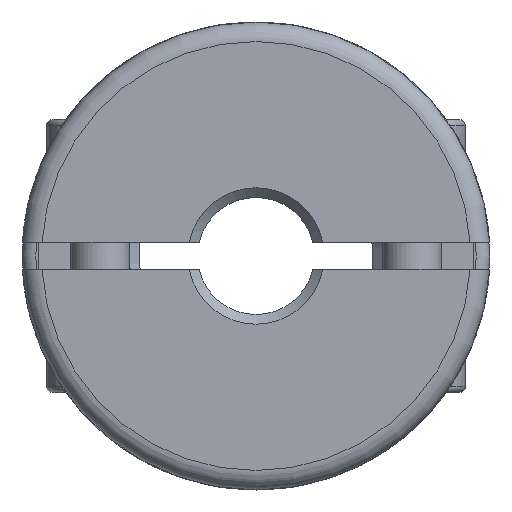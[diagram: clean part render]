
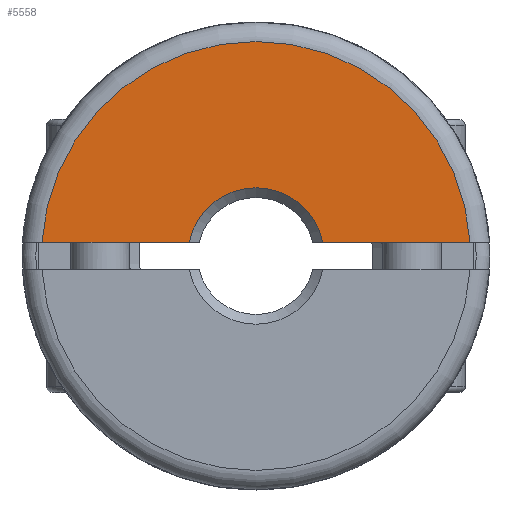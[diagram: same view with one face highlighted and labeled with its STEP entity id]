
A CAD part, left-side view. The second image highlights one B-rep face of the part: STEP entity #5558.
In plain terms, the highlighted planar face has unit normal (-1, 0, 0).
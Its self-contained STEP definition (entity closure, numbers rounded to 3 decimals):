
#122=LINE('',#7880,#282);
#123=LINE('',#7885,#283);
#282=VECTOR('',#6619,1000.);
#283=VECTOR('',#6622,1000.);
#443=PLANE('',#5907);
#834=ORIENTED_EDGE('',*,*,#1700,.T.);
#835=ORIENTED_EDGE('',*,*,#1701,.T.);
#836=ORIENTED_EDGE('',*,*,#1702,.T.);
#837=ORIENTED_EDGE('',*,*,#1703,.F.);
#1700=EDGE_CURVE('',#2165,#2166,#122,.T.);
#1701=EDGE_CURVE('',#2166,#2167,#2494,.T.);
#1702=EDGE_CURVE('',#2167,#2168,#123,.T.);
#1703=EDGE_CURVE('',#2165,#2168,#2495,.T.);
#2165=VERTEX_POINT('',#7881);
#2166=VERTEX_POINT('',#7882);
#2167=VERTEX_POINT('',#7884);
#2168=VERTEX_POINT('',#7886);
#2494=CIRCLE('',#5908,11.);
#2495=CIRCLE('',#5909,3.5);
#2809=EDGE_LOOP('',(#834,#835,#836,#837));
#3242=FACE_BOUND('',#2809,.T.);
#5558=ADVANCED_FACE('',(#3242),#443,.T.);
#5907=AXIS2_PLACEMENT_3D('',#7879,#6617,#6618);
#5908=AXIS2_PLACEMENT_3D('',#7883,#6620,#6621);
#5909=AXIS2_PLACEMENT_3D('',#7887,#6623,#6624);
#6617=DIRECTION('',(-1.,0.,0.));
#6618=DIRECTION('',(0.,0.,1.));
#6619=DIRECTION('',(0.,-1.,0.));
#6620=DIRECTION('',(-1.,0.,0.));
#6621=DIRECTION('',(0.,0.,1.));
#6622=DIRECTION('',(0.,-1.,0.));
#6623=DIRECTION('',(-1.,0.,0.));
#6624=DIRECTION('',(0.,0.,1.));
#7879=CARTESIAN_POINT('',(-135.8,13.679,0.7));
#7880=CARTESIAN_POINT('',(-135.8,13.679,1.4));
#7881=CARTESIAN_POINT('',(-135.8,-1.75,1.4));
#7882=CARTESIAN_POINT('',(-135.8,-9.298,1.4));
#7883=CARTESIAN_POINT('',(-135.8,1.679,0.7));
#7884=CARTESIAN_POINT('',(-135.8,12.657,1.4));
#7885=CARTESIAN_POINT('',(-135.8,13.679,1.4));
#7886=CARTESIAN_POINT('',(-135.8,5.109,1.4));
#7887=CARTESIAN_POINT('',(-135.8,1.679,0.7));
